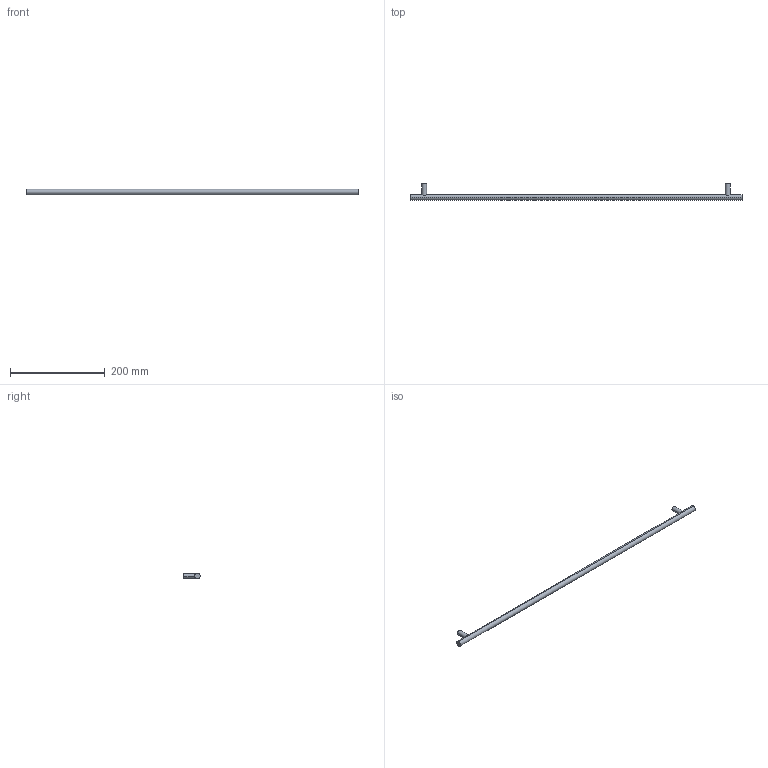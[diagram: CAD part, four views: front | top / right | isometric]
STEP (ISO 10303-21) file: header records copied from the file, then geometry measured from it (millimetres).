
FILE_DESCRIPTION( ( '' ), '1' );
FILE_NAME( 'D:/1.AUTOCAD EXPORT/Group 10/sheet_10_1/9071030.stp', '2013-10-21T10:28:04', ( '' ), ( '' ), ' ', ' ', ' ' );
FILE_SCHEMA( ( 'automotive_design' ) );
Length unit declared in the file: millimetre
Products named in the file (1): 1
Bounding box: 700 x 35 x 12 mm (x, y, z)
Volume: 82570.6 mm3; surface area: 28420.9 mm2
Topology: 1 solids, 1 shells, 16 faces, 32 edges, 22 vertices
Faces by surface type: cylinder 10, plane 6
Entity records: 972 total; most frequent: CARTESIAN_POINT 205, DIRECTION 76, STYLED_ITEM 71, PRESENTATION_STYLE_ASSIGNMENT 71, COLOUR_RGB 71, ORIENTED_EDGE 64, AXIS2_PLACEMENT_3D 33, EDGE_CURVE 32
